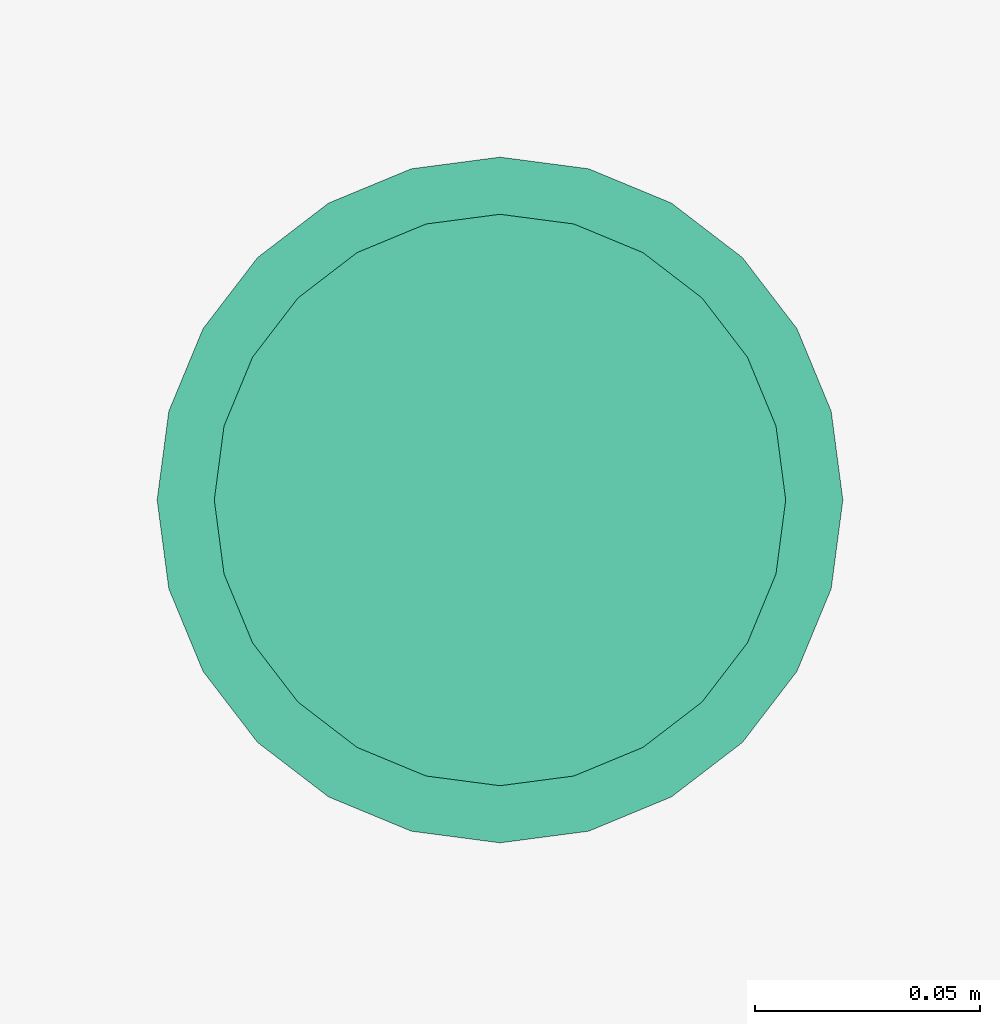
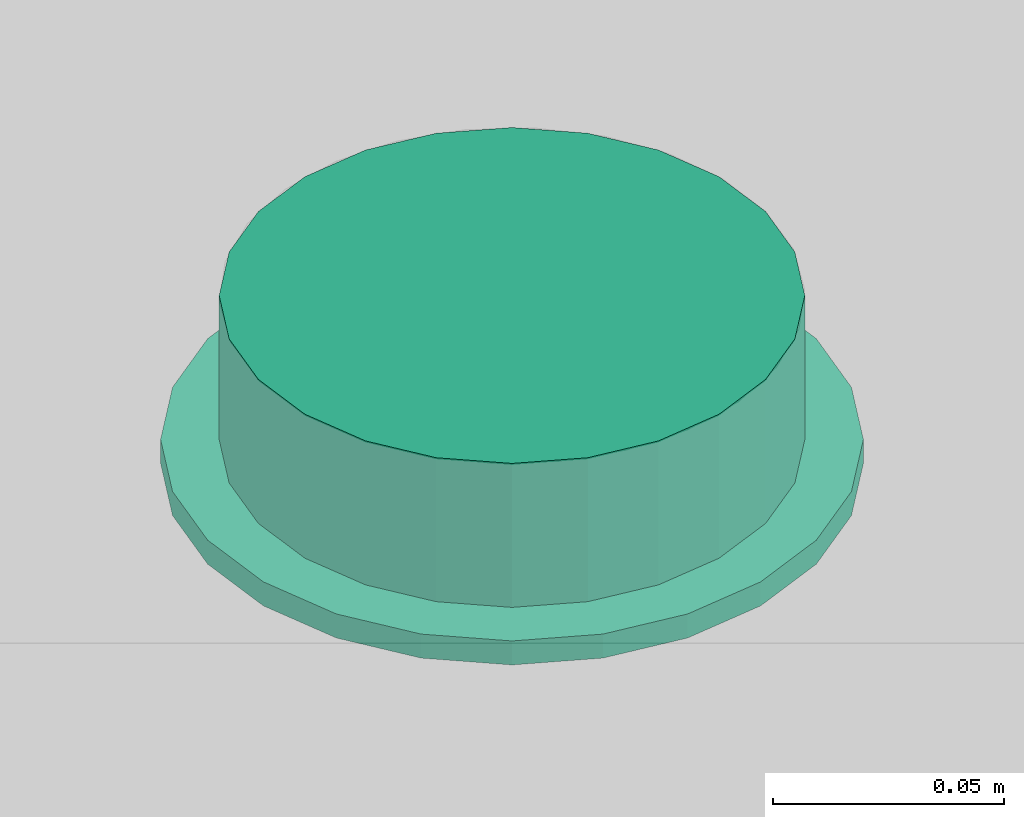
# One storey, part 41 of 81: 1 flow terminal.
"""IFC2X3 building model written with IfcOpenShell, lengths in feet."""

from ifc_helpers import new_model, entity, si_unit, converted_unit, derived_unit, direction, frame, origin, place, context, subcontext, project, spatial, faceted_brep, source, transform, mapped, material, material_list, type_object, type_shapes, element, save


model = new_model("IFC2X3")

# Units and contexts
model_context = context("Model", 3, precision=0.0001, world=origin(), true_north=direction((6.12303176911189e-17, 1.0)))
body_context = subcontext(model_context, "Body", "Model", "MODEL_VIEW")
ifc_project = project(units=[converted_unit("LENGTHUNIT", "FOOT", entity("IfcRatioMeasure", 0.3048), si_unit("LENGTHUNIT", "METRE"), dimensions=[1, 0, 0, 0, 0, 0, 0]), converted_unit("AREAUNIT", "SQUARE FOOT", entity("IfcRatioMeasure", 0.09290304), si_unit("AREAUNIT", "SQUARE_METRE"), dimensions=[2, 0, 0, 0, 0, 0, 0]), converted_unit("VOLUMEUNIT", "CUBIC FOOT", entity("IfcRatioMeasure", 0.028316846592), si_unit("VOLUMEUNIT", "CUBIC_METRE"), dimensions=[3, 0, 0, 0, 0, 0, 0]), converted_unit("PLANEANGLEUNIT", "DEGREE", entity("IfcRatioMeasure", 0.0174532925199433), si_unit("PLANEANGLEUNIT", "RADIAN"), dimensions=[0, 0, 0, 0, 0, 0, 0]), si_unit("MASSUNIT", "GRAM", prefix="KILO"), derived_unit("MASSDENSITYUNIT", [(si_unit("MASSUNIT", "GRAM", prefix="KILO"), 1), (si_unit("LENGTHUNIT", "METRE"), -3)]), derived_unit("MOMENTOFINERTIAUNIT", [(si_unit("LENGTHUNIT", "METRE"), 4)]), si_unit("TIMEUNIT", "SECOND"), si_unit("FREQUENCYUNIT", "HERTZ"), si_unit("THERMODYNAMICTEMPERATUREUNIT", "DEGREE_CELSIUS"), derived_unit("THERMALTRANSMITTANCEUNIT", [(si_unit("MASSUNIT", "GRAM", prefix="KILO"), 1), (si_unit("THERMODYNAMICTEMPERATUREUNIT", "KELVIN"), -1), (si_unit("TIMEUNIT", "SECOND"), -3)]), derived_unit("VOLUMETRICFLOWRATEUNIT", [(si_unit("LENGTHUNIT", "METRE"), 3), (si_unit("TIMEUNIT", "SECOND"), -1)]), si_unit("ELECTRICCURRENTUNIT", "AMPERE"), si_unit("ELECTRICVOLTAGEUNIT", "VOLT"), si_unit("POWERUNIT", "WATT"), si_unit("FORCEUNIT", "NEWTON"), si_unit("ILLUMINANCEUNIT", "LUX"), si_unit("LUMINOUSFLUXUNIT", "LUMEN"), si_unit("LUMINOUSINTENSITYUNIT", "CANDELA"), derived_unit("USERDEFINED", [(si_unit("MASSUNIT", "GRAM", prefix="KILO"), -1), (si_unit("LENGTHUNIT", "METRE"), -2), (si_unit("TIMEUNIT", "SECOND"), 3), (si_unit("LUMINOUSFLUXUNIT", "LUMEN"), 1)]), derived_unit("LINEARVELOCITYUNIT", [(si_unit("LENGTHUNIT", "METRE"), 1), (si_unit("TIMEUNIT", "SECOND"), -1)]), si_unit("PRESSUREUNIT", "PASCAL"), derived_unit("USERDEFINED", [(si_unit("LENGTHUNIT", "METRE"), -2), (si_unit("MASSUNIT", "GRAM", prefix="KILO"), 1), (si_unit("TIMEUNIT", "SECOND"), -2)]), derived_unit("LINEARFORCEUNIT", [(si_unit("MASSUNIT", "GRAM", prefix="KILO"), 1), (si_unit("LENGTHUNIT", "METRE"), 1), (si_unit("TIMEUNIT", "SECOND"), -2), (si_unit("LENGTHUNIT", "METRE"), -1)]), derived_unit("PLANARFORCEUNIT", [(si_unit("MASSUNIT", "GRAM", prefix="KILO"), 1), (si_unit("LENGTHUNIT", "METRE"), 1), (si_unit("TIMEUNIT", "SECOND"), -2), (si_unit("LENGTHUNIT", "METRE"), -2)])], contexts=[model_context])

# Site, building, storey
site_placement = place(None, origin())
site = spatial("IfcSite", under=ifc_project, at=site_placement, Name="Default", CompositionType="ELEMENT")
building_placement = place(site_placement, origin())
building = spatial("IfcBuilding", under=site, at=building_placement, CompositionType="ELEMENT")
storey_placement = place(building_placement, origin())
storey = spatial("IfcBuildingStorey", under=building, at=storey_placement, Name="First floor", CompositionType="ELEMENT", Elevation=0.0)

# Flow terminal
ifc_material_1 = material(Name="Default New Material")
ifc_material_2 = material(Name="Glass, White, High Luminance")
ifc_material_list_1 = material_list([ifc_material_1, ifc_material_2])
ifc_material_list_2 = material_list([ifc_material_1, ifc_material_2])
light_fixture_type = type_object("IfcLightFixtureType", Name="M_Recessed Lamp - Round - LED:Light 2", PredefinedType="NOTDEFINED", material=ifc_material_list_2)
shared_shape = source(origin(), body_context, "Body", "Brep", [
    faceted_brep([(-0.124999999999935, 0.216506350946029, 0.0208333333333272), (-0.176776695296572, 0.176776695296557, 0.0208333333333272), (-0.0833333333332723, 0.144337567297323, 0.0208333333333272), (-0.0431365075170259, 0.160987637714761, 0.0208333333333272), (-0.0647047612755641, 0.241481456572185, 0.0208333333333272), (-0.117851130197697, 0.117851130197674, 0.0208333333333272), (-0.216506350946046, 0.12499999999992, 0.0208333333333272), (-0.144337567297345, 0.0833333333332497, 0.0208333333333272), (-0.160987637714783, 0.0431365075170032, 0.0208333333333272), (-0.241481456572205, 0.0647047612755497, 0.0208333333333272), (-0.166666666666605, 0.0, 0.0208333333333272), (-0.249999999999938, 0.0, 0.0208333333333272), (-0.160987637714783, -0.0431365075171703, 0.0208333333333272), (-0.241481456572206, -0.0647047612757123, 0.0208333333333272), (-0.144337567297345, -0.0833333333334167, 0.0208333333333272), (-0.216506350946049, -0.125000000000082, 0.0208333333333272), (-0.117851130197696, -0.117851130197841, 0.0208333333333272), (-0.176776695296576, -0.176776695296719, 0.0208333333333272), (-0.0833333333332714, -0.14433756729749, 0.0208333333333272), (-0.12499999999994, -0.216506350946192, 0.0208333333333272), (-0.0431365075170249, -0.160987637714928, 0.0208333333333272), (-0.0647047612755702, -0.24148145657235, 0.0208333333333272), (0.0, -0.16666666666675, 0.0208333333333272), (0.0, -0.250000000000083, 0.0208333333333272), (0.0431365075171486, -0.160987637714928, 0.0208333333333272), (0.0647047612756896, -0.241481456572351, 0.0208333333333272), (0.0833333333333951, -0.144337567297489, 0.0208333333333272), (0.12500000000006, -0.216506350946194, 0.0208333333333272), (0.11785113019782, -0.117851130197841, 0.0208333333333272), (0.176776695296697, -0.176776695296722, 0.0208333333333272), (0.144337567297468, -0.0833333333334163, 0.0208333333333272), (0.21650635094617, -0.125000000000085, 0.0208333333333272), (0.241481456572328, -0.0647047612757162, 0.0208333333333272), (0.160987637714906, -0.0431365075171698, 0.0208333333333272), (0.250000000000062, 0.0, 0.0208333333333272), (0.166666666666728, 0.0, 0.0208333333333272), (0.241481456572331, 0.06470476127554, 0.0208333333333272), (0.160987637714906, 0.0431365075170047, 0.0208333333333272), (0.216506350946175, 0.124999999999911, 0.0208333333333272), (0.144337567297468, 0.0833333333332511, 0.0208333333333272), (0.176776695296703, 0.176776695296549, 0.0208333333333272), (0.117851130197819, 0.117851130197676, 0.0208333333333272), (0.125000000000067, 0.216506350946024, 0.0208333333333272), (0.0833333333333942, 0.144337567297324, 0.0208333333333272), (0.0647047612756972, 0.241481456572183, 0.0208333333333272), (0.0431365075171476, 0.160987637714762, 0.0208333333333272), (0.0, 0.249999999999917, 0.0208333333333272), (0.0, 0.166666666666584, 0.0208333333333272), (-0.12499999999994, -0.216506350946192, 0.0), (-0.176776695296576, -0.176776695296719, 0.0), (-0.0833333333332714, -0.14433756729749, 0.0), (-0.0431365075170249, -0.160987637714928, 0.0), (-0.0647047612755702, -0.24148145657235, 0.0), (-0.117851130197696, -0.117851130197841, 0.0), (-0.216506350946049, -0.125000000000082, 0.0), (-0.144337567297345, -0.0833333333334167, 0.0), (-0.160987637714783, -0.0431365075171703, 0.0), (-0.241481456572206, -0.0647047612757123, 0.0), (-0.166666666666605, 0.0, 0.0), (-0.249999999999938, 0.0, 0.0), (-0.160987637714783, 0.0431365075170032, 0.0), (-0.241481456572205, 0.0647047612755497, 0.0), (-0.144337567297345, 0.0833333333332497, 0.0), (-0.216506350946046, 0.12499999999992, 0.0), (-0.117851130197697, 0.117851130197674, 0.0), (-0.176776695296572, 0.176776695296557, 0.0), (-0.0833333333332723, 0.144337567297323, 0.0), (-0.124999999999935, 0.216506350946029, 0.0), (-0.0431365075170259, 0.160987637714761, 0.0), (-0.0647047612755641, 0.241481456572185, 0.0), (0.0, 0.166666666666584, 0.0), (0.0, 0.249999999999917, 0.0), (0.0431365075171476, 0.160987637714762, 0.0), (0.0647047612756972, 0.241481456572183, 0.0), (0.0833333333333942, 0.144337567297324, 0.0), (0.125000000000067, 0.216506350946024, 0.0), (0.117851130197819, 0.117851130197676, 0.0), (0.176776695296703, 0.176776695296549, 0.0), (0.144337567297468, 0.0833333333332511, 0.0), (0.216506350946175, 0.124999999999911, 0.0), (0.241481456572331, 0.06470476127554, 0.0), (0.160987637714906, 0.0431365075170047, 0.0), (0.250000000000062, 0.0, 0.0), (0.166666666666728, 0.0, 0.0), (0.241481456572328, -0.0647047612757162, 0.0), (0.160987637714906, -0.0431365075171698, 0.0), (0.21650635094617, -0.125000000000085, 0.0), (0.144337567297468, -0.0833333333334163, 0.0), (0.176776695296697, -0.176776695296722, 0.0), (0.11785113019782, -0.117851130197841, 0.0), (0.12500000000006, -0.216506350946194, 0.0), (0.0833333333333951, -0.144337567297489, 0.0), (0.0647047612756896, -0.241481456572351, 0.0), (0.0431365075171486, -0.160987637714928, 0.0), (0.0, -0.250000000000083, 0.0), (0.0, -0.16666666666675, 0.0)], [[[0, 1, 2]], [[0, 2, 3]], [[3, 4, 0]], [[2, 1, 5]], [[6, 5, 1]], [[7, 5, 6]], [[8, 7, 6]], [[8, 6, 9]], [[8, 9, 10]], [[10, 9, 11]], [[12, 10, 11]], [[12, 11, 13]], [[14, 12, 13]], [[14, 13, 15]], [[16, 14, 15]], [[15, 17, 16]], [[17, 18, 16]], [[18, 17, 19]], [[18, 19, 20]], [[21, 20, 19]], [[20, 21, 22]], [[22, 21, 23]], [[23, 24, 22]], [[24, 23, 25]], [[24, 25, 26]], [[27, 26, 25]], [[27, 28, 26]], [[27, 29, 28]], [[30, 28, 29]], [[31, 30, 29]], [[32, 30, 31]], [[33, 30, 32]], [[33, 32, 34]], [[34, 35, 33]], [[36, 35, 34]], [[36, 37, 35]], [[37, 36, 38]], [[39, 37, 38]], [[39, 38, 40]], [[39, 40, 41]], [[40, 42, 41]], [[41, 42, 43]], [[43, 42, 44]], [[44, 45, 43]], [[46, 45, 44]], [[4, 47, 46]], [[45, 46, 47]], [[4, 3, 47]], [[48, 49, 50]], [[48, 50, 51]], [[51, 52, 48]], [[50, 49, 53]], [[54, 53, 49]], [[55, 53, 54]], [[56, 55, 54]], [[56, 54, 57]], [[56, 57, 58]], [[58, 57, 59]], [[60, 58, 59]], [[60, 59, 61]], [[62, 60, 61]], [[62, 61, 63]], [[64, 62, 63]], [[63, 65, 64]], [[65, 66, 64]], [[66, 65, 67]], [[66, 67, 68]], [[69, 68, 67]], [[68, 69, 70]], [[70, 69, 71]], [[71, 72, 70]], [[72, 71, 73]], [[72, 73, 74]], [[75, 74, 73]], [[75, 76, 74]], [[75, 77, 76]], [[78, 76, 77]], [[79, 78, 77]], [[80, 78, 79]], [[81, 78, 80]], [[81, 80, 82]], [[82, 83, 81]], [[84, 83, 82]], [[84, 85, 83]], [[85, 84, 86]], [[87, 85, 86]], [[87, 86, 88]], [[87, 88, 89]], [[88, 90, 89]], [[89, 90, 91]], [[91, 90, 92]], [[92, 93, 91]], [[94, 93, 92]], [[52, 95, 94]], [[93, 94, 95]], [[52, 51, 95]], [[10, 58, 60, 8]], [[8, 60, 62, 7]], [[2, 5, 64, 66]], [[62, 64, 5, 7]], [[3, 2, 66, 68]], [[70, 47, 3, 68]], [[45, 72, 74, 43]], [[43, 74, 76, 41]], [[37, 39, 78, 81]], [[76, 78, 39, 41]], [[35, 37, 81, 83]], [[45, 47, 70, 72]], [[35, 83, 85, 33]], [[33, 85, 87, 30]], [[26, 28, 89, 91]], [[87, 89, 28, 30]], [[24, 26, 91, 93]], [[95, 22, 24, 93]], [[20, 51, 50, 18]], [[18, 50, 53, 16]], [[12, 14, 55, 56]], [[53, 55, 14, 16]], [[10, 12, 56, 58]], [[20, 22, 95, 51]], [[57, 13, 11, 59]], [[54, 15, 13, 57]], [[19, 17, 49, 48]], [[54, 49, 17, 15]], [[21, 19, 48, 52]], [[23, 21, 52, 94]], [[92, 25, 23, 94]], [[90, 27, 25, 92]], [[31, 29, 88, 86]], [[90, 88, 29, 27]], [[32, 31, 86, 84]], [[34, 32, 84, 82]], [[80, 36, 34, 82]], [[79, 38, 36, 80]], [[42, 40, 77, 75]], [[79, 77, 40, 38]], [[44, 42, 75, 73]], [[46, 44, 73, 71]], [[69, 4, 46, 71]], [[67, 0, 4, 69]], [[6, 1, 65, 63]], [[67, 65, 1, 0]], [[9, 6, 63, 61]], [[11, 9, 61, 59]]]),
    faceted_brep([(0.0431365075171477, -0.160987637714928, 0.0208333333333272), (0.0833333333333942, -0.14433756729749, 0.0208333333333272), (0.117851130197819, -0.117851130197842, 0.0208333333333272), (0.144337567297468, -0.0833333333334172, 0.0208333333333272), (0.160987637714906, -0.0431365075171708, 0.0208333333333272), (0.166666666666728, 0.0, 0.0208333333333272), (0.160987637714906, 0.0431365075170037, 0.0208333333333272), (0.144337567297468, 0.0833333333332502, 0.0208333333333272), (0.11785113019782, 0.117851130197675, 0.0208333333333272), (0.0833333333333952, 0.144337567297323, 0.0208333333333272), (0.0431365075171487, 0.160987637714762, 0.0208333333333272), (0.0, 0.166666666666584, 0.0208333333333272), (-0.0431365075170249, 0.160987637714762, 0.0208333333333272), (-0.0833333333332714, 0.144337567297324, 0.0208333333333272), (-0.117851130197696, 0.117851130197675, 0.0208333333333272), (-0.144337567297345, 0.0833333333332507, 0.0208333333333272), (-0.160987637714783, 0.0431365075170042, 0.0208333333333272), (-0.166666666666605, 0.0, 0.0208333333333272), (-0.160987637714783, -0.0431365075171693, 0.0208333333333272), (-0.144337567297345, -0.0833333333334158, 0.0208333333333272), (-0.117851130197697, -0.117851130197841, 0.0208333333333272), (-0.0833333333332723, -0.144337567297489, 0.0208333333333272), (-0.0431365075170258, -0.160987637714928, 0.0208333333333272), (0.0, -0.16666666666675, 0.0208333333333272), (0.0431365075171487, 0.160987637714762, 0.0), (0.0833333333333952, 0.144337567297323, 0.0), (0.11785113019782, 0.117851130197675, 0.0), (0.144337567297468, 0.0833333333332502, 0.0), (0.160987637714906, 0.0431365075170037, 0.0), (0.166666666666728, 0.0, 0.0), (0.160987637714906, -0.0431365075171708, 0.0), (0.144337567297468, -0.0833333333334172, 0.0), (0.117851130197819, -0.117851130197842, 0.0), (0.0833333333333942, -0.14433756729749, 0.0), (0.0431365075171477, -0.160987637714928, 0.0), (0.0, -0.16666666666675, 0.0), (-0.0431365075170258, -0.160987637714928, 0.0), (-0.0833333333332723, -0.144337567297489, 0.0), (-0.117851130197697, -0.117851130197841, 0.0), (-0.144337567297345, -0.0833333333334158, 0.0), (-0.160987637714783, -0.0431365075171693, 0.0), (-0.166666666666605, 0.0, 0.0), (-0.160987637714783, 0.0431365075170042, 0.0), (-0.144337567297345, 0.0833333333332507, 0.0), (-0.117851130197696, 0.117851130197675, 0.0), (-0.0833333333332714, 0.144337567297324, 0.0), (-0.0431365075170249, 0.160987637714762, 0.0), (0.0, 0.166666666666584, 0.0)], [[[0, 1, 2, 3, 4, 5, 6, 7, 8, 9, 10, 11, 12, 13, 14, 15, 16, 17, 18, 19, 20, 21, 22, 23]], [[24, 25, 26, 27, 28, 29, 30, 31, 32, 33, 34, 35, 36, 37, 38, 39, 40, 41, 42, 43, 44, 45, 46, 47]], [[40, 18, 17, 41]], [[39, 19, 18, 40]], [[21, 20, 38, 37]], [[39, 38, 20, 19]], [[22, 21, 37, 36]], [[23, 22, 36, 35]], [[34, 0, 23, 35]], [[33, 1, 0, 34]], [[3, 2, 32, 31]], [[33, 32, 2, 1]], [[4, 3, 31, 30]], [[5, 4, 30, 29]], [[28, 6, 5, 29]], [[27, 7, 6, 28]], [[9, 8, 26, 25]], [[27, 26, 8, 7]], [[10, 9, 25, 24]], [[11, 10, 24, 47]], [[46, 12, 11, 47]], [[45, 13, 12, 46]], [[15, 14, 44, 43]], [[45, 44, 14, 13]], [[16, 15, 43, 42]], [[17, 16, 42, 41]]]),
    faceted_brep([(0.0, -0.16666666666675, -0.104166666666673), (0.0431365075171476, -0.160987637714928, -0.104166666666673), (0.0833333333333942, -0.14433756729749, -0.104166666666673), (0.117851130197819, -0.117851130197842, -0.104166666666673), (0.144337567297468, -0.0833333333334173, -0.104166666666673), (0.160987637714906, -0.0431365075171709, -0.104166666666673), (0.166666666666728, 0.0, -0.104166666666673), (0.160987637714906, 0.0431365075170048, -0.104166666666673), (0.144337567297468, 0.0833333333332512, -0.104166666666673), (0.117851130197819, 0.117851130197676, -0.104166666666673), (0.0833333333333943, 0.144337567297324, -0.104166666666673), (0.0431365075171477, 0.160987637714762, -0.104166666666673), (0.0, 0.166666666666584, -0.104166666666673), (-0.0431365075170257, 0.160987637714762, -0.104166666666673), (-0.0833333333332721, 0.144337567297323, -0.104166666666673), (-0.117851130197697, 0.117851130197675, -0.104166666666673), (-0.144337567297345, 0.0833333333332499, -0.104166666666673), (-0.160987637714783, 0.0431365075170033, -0.104166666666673), (-0.166666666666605, 0.0, -0.104166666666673), (-0.160987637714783, -0.0431365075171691, -0.104166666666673), (-0.144337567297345, -0.0833333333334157, -0.104166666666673), (-0.117851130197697, -0.11785113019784, -0.104166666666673), (-0.0833333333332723, -0.144337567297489, -0.104166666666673), (-0.0431365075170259, -0.160987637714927, -0.104166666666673), (0.0, 0.20833333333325, -0.125000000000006), (0.0539206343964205, 0.201234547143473, -0.125000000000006), (0.104166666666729, 0.180421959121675, -0.125000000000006), (0.147313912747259, 0.147313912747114, -0.125000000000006), (0.18042195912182, 0.104166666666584, -0.125000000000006), (0.201234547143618, 0.0539206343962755, -0.125000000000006), (0.208333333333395, 0.0, -0.125000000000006), (0.201234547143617, -0.0539206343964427, -0.125000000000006), (0.180421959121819, -0.104166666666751, -0.125000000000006), (0.147313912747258, -0.147313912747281, -0.125000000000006), (0.104166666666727, -0.180421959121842, -0.125000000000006), (0.0539206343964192, -0.201234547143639, -0.125000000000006), (0.0, -0.208333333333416, -0.125000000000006), (-0.0539206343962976, -0.201234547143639, -0.125000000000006), (-0.104166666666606, -0.180421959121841, -0.125000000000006), (-0.147313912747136, -0.14731391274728, -0.125000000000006), (-0.180421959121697, -0.104166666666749, -0.125000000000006), (-0.201234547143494, -0.0539206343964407, -0.125000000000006), (-0.208333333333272, 0.0, -0.125000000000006), (-0.201234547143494, 0.0539206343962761, -0.125000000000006), (-0.180421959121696, 0.104166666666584, -0.125000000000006), (-0.147313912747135, 0.147313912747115, -0.125000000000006), (-0.104166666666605, 0.180421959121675, -0.125000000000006), (-0.0539206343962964, 0.201234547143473, -0.125000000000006), (-0.201234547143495, -0.0539206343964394, -0.104166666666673), (-0.201234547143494, -0.0539206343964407, 0.0), (-0.208333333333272, 0.0, 0.0), (-0.208333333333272, 0.0, -0.104166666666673), (-0.180421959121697, -0.104166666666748, -0.104166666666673), (-0.180421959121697, -0.104166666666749, 0.0), (-0.104166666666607, -0.18042195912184, -0.104166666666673), (-0.104166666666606, -0.180421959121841, 0.0), (-0.147313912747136, -0.14731391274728, 0.0), (-0.147313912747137, -0.147313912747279, -0.104166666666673), (-0.0539206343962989, -0.201234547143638, -0.104166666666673), (-0.0539206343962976, -0.201234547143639, 0.0), (0.0, -0.208333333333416, -0.104166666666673), (0.0, -0.208333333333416, 0.0), (0.053920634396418, -0.201234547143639, -0.104166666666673), (0.0539206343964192, -0.201234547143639, 0.0), (0.104166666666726, -0.180421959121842, -0.104166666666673), (0.104166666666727, -0.180421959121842, 0.0), (0.180421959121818, -0.104166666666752, -0.104166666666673), (0.180421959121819, -0.104166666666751, 0.0), (0.147313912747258, -0.147313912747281, 0.0), (0.147313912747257, -0.147313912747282, -0.104166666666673), (0.201234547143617, -0.0539206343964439, -0.104166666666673), (0.201234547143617, -0.0539206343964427, 0.0), (0.208333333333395, 0.0, -0.104166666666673), (0.208333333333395, 0.0, 0.0), (0.201234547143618, 0.0539206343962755, -0.104166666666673), (0.201234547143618, 0.0539206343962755, 0.0), (0.18042195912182, 0.104166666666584, -0.104166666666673), (0.18042195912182, 0.104166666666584, 0.0), (0.104166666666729, 0.180421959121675, -0.104166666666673), (0.104166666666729, 0.180421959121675, 0.0), (0.147313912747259, 0.147313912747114, 0.0), (0.147313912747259, 0.147313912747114, -0.104166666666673), (0.0539206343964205, 0.201234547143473, -0.104166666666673), (0.0539206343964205, 0.201234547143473, 0.0), (0.0, 0.20833333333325, -0.104166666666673), (0.0, 0.20833333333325, 0.0), (-0.0539206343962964, 0.201234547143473, -0.104166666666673), (-0.0539206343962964, 0.201234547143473, 0.0), (-0.104166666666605, 0.180421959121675, -0.104166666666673), (-0.104166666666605, 0.180421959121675, 0.0), (-0.180421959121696, 0.104166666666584, -0.104166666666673), (-0.180421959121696, 0.104166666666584, 0.0), (-0.147313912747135, 0.147313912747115, 0.0), (-0.147313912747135, 0.147313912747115, -0.104166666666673), (-0.201234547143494, 0.0539206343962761, -0.104166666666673), (-0.201234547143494, 0.0539206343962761, 0.0), (-0.0833333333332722, 0.144337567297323, 0.0), (-0.0431365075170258, 0.160987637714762, 0.0), (-0.117851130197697, 0.117851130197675, 0.0), (-0.144337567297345, 0.0833333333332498, 0.0), (-0.160987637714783, 0.0431365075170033, 0.0), (-0.166666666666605, 0.0, 0.0), (-0.160987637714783, -0.0431365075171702, 0.0), (-0.144337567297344, -0.0833333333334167, 0.0), (-0.117851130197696, -0.117851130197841, 0.0), (-0.0833333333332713, -0.14433756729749, 0.0), (-0.0431365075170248, -0.160987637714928, 0.0), (0.0, -0.16666666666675, 0.0), (0.0431365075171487, -0.160987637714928, 0.0), (0.0833333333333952, -0.144337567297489, 0.0), (0.11785113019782, -0.117851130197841, 0.0), (0.144337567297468, -0.0833333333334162, 0.0), (0.160987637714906, -0.0431365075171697, 0.0), (0.166666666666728, 0.0, 0.0), (0.160987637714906, 0.0431365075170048, 0.0), (0.144337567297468, 0.0833333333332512, 0.0), (0.117851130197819, 0.117851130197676, 0.0), (0.0833333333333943, 0.144337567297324, 0.0), (0.0431365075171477, 0.160987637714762, 0.0), (0.0, 0.166666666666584, 0.0)], [[[0, 1, 2, 3, 4, 5, 6, 7, 8, 9, 10, 11, 12, 13, 14, 15, 16, 17, 18, 19, 20, 21, 22, 23]], [[24, 25, 26, 27, 28, 29, 30, 31, 32, 33, 34, 35, 36, 37, 38, 39, 40, 41, 42, 43, 44, 45, 46, 47]], [[41, 48, 49, 50, 51, 42]], [[40, 52, 53, 49, 48, 41]], [[54, 55, 56, 57, 39, 38]], [[40, 39, 57, 56, 53, 52]], [[58, 59, 55, 54, 38, 37]], [[60, 61, 59, 58, 37, 36]], [[35, 62, 63, 61, 60, 36]], [[34, 64, 65, 63, 62, 35]], [[66, 67, 68, 69, 33, 32]], [[34, 33, 69, 68, 65, 64]], [[70, 71, 67, 66, 32, 31]], [[72, 73, 71, 70, 31, 30]], [[29, 74, 75, 73, 72, 30]], [[28, 76, 77, 75, 74, 29]], [[78, 79, 80, 81, 27, 26]], [[28, 27, 81, 80, 77, 76]], [[82, 83, 79, 78, 26, 25]], [[84, 85, 83, 82, 25, 24]], [[47, 86, 87, 85, 84, 24]], [[46, 88, 89, 87, 86, 47]], [[90, 91, 92, 93, 45, 44]], [[46, 45, 93, 92, 89, 88]], [[94, 95, 91, 90, 44, 43]], [[51, 50, 95, 94, 43, 42]], [[89, 92, 96]], [[89, 96, 97]], [[97, 87, 89]], [[96, 92, 98]], [[91, 98, 92]], [[99, 98, 91]], [[100, 99, 91]], [[100, 91, 95]], [[100, 95, 101]], [[101, 95, 50]], [[102, 101, 50]], [[102, 50, 49]], [[103, 102, 49]], [[103, 49, 53]], [[104, 103, 53]], [[53, 56, 104]], [[56, 105, 104]], [[105, 56, 55]], [[105, 55, 106]], [[59, 106, 55]], [[106, 59, 107]], [[107, 59, 61]], [[61, 108, 107]], [[108, 61, 63]], [[108, 63, 109]], [[65, 109, 63]], [[65, 110, 109]], [[65, 68, 110]], [[111, 110, 68]], [[67, 111, 68]], [[71, 111, 67]], [[112, 111, 71]], [[112, 71, 73]], [[73, 113, 112]], [[75, 113, 73]], [[75, 114, 113]], [[114, 75, 77]], [[115, 114, 77]], [[115, 77, 80]], [[115, 80, 116]], [[80, 79, 116]], [[116, 79, 117]], [[117, 79, 83]], [[83, 118, 117]], [[85, 118, 83]], [[87, 119, 85]], [[85, 119, 118]], [[87, 97, 119]], [[113, 6, 5, 112]], [[112, 5, 4, 111]], [[109, 110, 3, 2]], [[4, 3, 110, 111]], [[108, 109, 2, 1]], [[0, 107, 108, 1]], [[104, 105, 22, 21]], [[23, 22, 105, 106]], [[102, 103, 20, 19]], [[104, 21, 20, 103]], [[102, 19, 18, 101]], [[0, 23, 106, 107]], [[101, 18, 17, 100]], [[100, 17, 16, 99]], [[96, 98, 15, 14]], [[16, 15, 98, 99]], [[97, 96, 14, 13]], [[12, 119, 97, 13]], [[118, 11, 10, 117]], [[117, 10, 9, 116]], [[114, 115, 8, 7]], [[9, 8, 115, 116]], [[113, 114, 7, 6]], [[118, 119, 12, 11]]]),
])
type_shapes(light_fixture_type, [shared_shape])
flow_terminal_placement = place(storey_placement, frame((8.91632952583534, 13.1398186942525, 20.5416666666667), z_axis=(0.0, 0.0, -1.0), x_axis=(1.0, 0.0, 0.0)))
element("IfcFlowTerminal", 1, at=flow_terminal_placement, inside=storey, type_object=light_fixture_type, material=ifc_material_list_1, Name="M_Recessed Lamp - Round - LED:Light 2", ObjectType="M_Recessed Lamp - Round - LED:Light 2", context=body_context, shape_type="MappedRepresentation", body=[
    mapped(shared_shape, transform((0.0, 0.0, 0.0), scale=1.0)),
])

save(model, "model.ifc")
